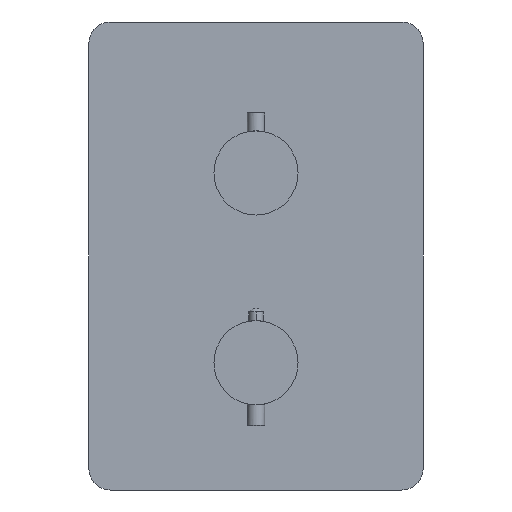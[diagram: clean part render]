
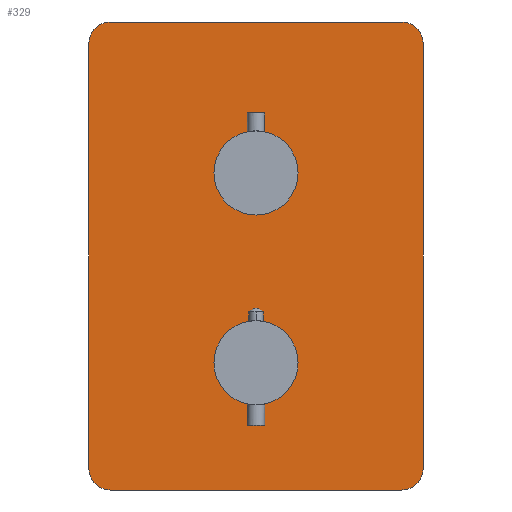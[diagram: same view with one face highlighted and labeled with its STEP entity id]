
A CAD part, left-side view. The second image highlights one B-rep face of the part: STEP entity #329.
In plain terms, the highlighted planar face has unit normal (-1, 0, 0).
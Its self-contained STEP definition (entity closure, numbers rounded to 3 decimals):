
#5 = ORIENTED_EDGE ( 'NONE', *, *, #674, .F. ) ;
#12 = EDGE_LOOP ( 'NONE', ( #978, #922 ) ) ;
#21 = CIRCLE ( 'NONE', #486, 10. ) ;
#26 = CIRCLE ( 'NONE', #165, 19.5 ) ;
#41 = CARTESIAN_POINT ( 'NONE',  ( -188.646, 18.568, -265.911 ) ) ;
#50 = VERTEX_POINT ( 'NONE', #2085 ) ;
#56 = AXIS2_PLACEMENT_3D ( 'NONE', #1335, #1519, #1196 ) ;
#65 = CARTESIAN_POINT ( 'NONE',  ( -188.646, -48.932, -186.411 ) ) ;
#103 = ORIENTED_EDGE ( 'NONE', *, *, #1106, .T. ) ;
#117 = DIRECTION ( 'NONE',  ( 0., 0., -1. ) ) ;
#165 = AXIS2_PLACEMENT_3D ( 'NONE', #2019, #1490, #1041 ) ;
#199 = CIRCLE ( 'NONE', #1599, 10. ) ;
#200 = AXIS2_PLACEMENT_3D ( 'NONE', #791, #1725, #778 ) ;
#215 = DIRECTION ( 'NONE',  ( 0., 0., 1. ) ) ;
#223 = EDGE_CURVE ( 'NONE', #1763, #50, #1557, .T. ) ;
#248 = DIRECTION ( 'NONE',  ( 1., 0., 0. ) ) ;
#259 = CARTESIAN_POINT ( 'NONE',  ( -188.646, 96.068, -393.411 ) ) ;
#274 = CARTESIAN_POINT ( 'NONE',  ( -188.646, 86.068, -186.411 ) ) ;
#329 = ADVANCED_FACE ( 'NONE', ( #1075, #1901, #1718 ), #2064, .F. ) ;
#341 = CARTESIAN_POINT ( 'NONE',  ( -188.646, 18.568, -226.911 ) ) ;
#376 = CARTESIAN_POINT ( 'NONE',  ( -188.646, -58.932, -141.792 ) ) ;
#385 = LINE ( 'NONE', #376, #900 ) ;
#391 = DIRECTION ( 'NONE',  ( 0., 0., 1. ) ) ;
#432 = CARTESIAN_POINT ( 'NONE',  ( -188.646, 96.068, -383.411 ) ) ;
#468 = CARTESIAN_POINT ( 'NONE',  ( -188.646, -48.932, -176.411 ) ) ;
#471 = EDGE_CURVE ( 'NONE', #1464, #1043, #21, .T. ) ;
#486 = AXIS2_PLACEMENT_3D ( 'NONE', #65, #703, #1332 ) ;
#489 = VERTEX_POINT ( 'NONE', #540 ) ;
#499 = DIRECTION ( 'NONE',  ( 0., -1., 0. ) ) ;
#518 = AXIS2_PLACEMENT_3D ( 'NONE', #1947, #1658, #391 ) ;
#540 = CARTESIAN_POINT ( 'NONE',  ( -188.646, -48.932, -393.411 ) ) ;
#552 = VERTEX_POINT ( 'NONE', #1264 ) ;
#580 = DIRECTION ( 'NONE',  ( 0., 1., 0. ) ) ;
#583 = CARTESIAN_POINT ( 'NONE',  ( -188.646, 18.568, -246.411 ) ) ;
#595 = VERTEX_POINT ( 'NONE', #1045 ) ;
#622 = CARTESIAN_POINT ( 'NONE',  ( -188.646, 18.568, -314.911 ) ) ;
#654 = AXIS2_PLACEMENT_3D ( 'NONE', #1252, #1923, #1742 ) ;
#658 = EDGE_CURVE ( 'NONE', #552, #489, #965, .T. ) ;
#659 = EDGE_CURVE ( 'NONE', #760, #1550, #1279, .T. ) ;
#674 = EDGE_CURVE ( 'NONE', #595, #845, #26, .T. ) ;
#703 = DIRECTION ( 'NONE',  ( 1., 0., 0. ) ) ;
#708 = VERTEX_POINT ( 'NONE', #1799 ) ;
#714 = CARTESIAN_POINT ( 'NONE',  ( -188.646, 96.068, -421.722 ) ) ;
#743 = LINE ( 'NONE', #259, #1927 ) ;
#760 = VERTEX_POINT ( 'NONE', #341 ) ;
#764 = ORIENTED_EDGE ( 'NONE', *, *, #1312, .F. ) ;
#778 = DIRECTION ( 'NONE',  ( 0., 0., -1. ) ) ;
#784 = CIRCLE ( 'NONE', #1707, 19.5 ) ;
#791 = CARTESIAN_POINT ( 'NONE',  ( -188.646, 18.568, -334.411 ) ) ;
#845 = VERTEX_POINT ( 'NONE', #622 ) ;
#851 = DIRECTION ( 'NONE',  ( 0., 0., -1. ) ) ;
#864 = VECTOR ( 'NONE', #499, 1000. ) ;
#899 = EDGE_CURVE ( 'NONE', #552, #1043, #385, .T. ) ;
#900 = VECTOR ( 'NONE', #215, 1000. ) ;
#913 = CARTESIAN_POINT ( 'NONE',  ( -188.646, 86.068, -383.411 ) ) ;
#922 = ORIENTED_EDGE ( 'NONE', *, *, #659, .F. ) ;
#924 = DIRECTION ( 'NONE',  ( -1., 0., 0. ) ) ;
#955 = EDGE_CURVE ( 'NONE', #1550, #760, #784, .T. ) ;
#965 = CIRCLE ( 'NONE', #518, 10. ) ;
#967 = ORIENTED_EDGE ( 'NONE', *, *, #899, .T. ) ;
#978 = ORIENTED_EDGE ( 'NONE', *, *, #955, .F. ) ;
#1004 = ORIENTED_EDGE ( 'NONE', *, *, #1251, .F. ) ;
#1041 = DIRECTION ( 'NONE',  ( 0., 0., -1. ) ) ;
#1043 = VERTEX_POINT ( 'NONE', #1757 ) ;
#1045 = CARTESIAN_POINT ( 'NONE',  ( -188.646, 18.568, -353.911 ) ) ;
#1075 = FACE_BOUND ( 'NONE', #1192, .T. ) ;
#1106 = EDGE_CURVE ( 'NONE', #1763, #1949, #1987, .T. ) ;
#1192 = EDGE_LOOP ( 'NONE', ( #5, #1681 ) ) ;
#1196 = DIRECTION ( 'NONE',  ( 0., 0., -1. ) ) ;
#1246 = ORIENTED_EDGE ( 'NONE', *, *, #658, .F. ) ;
#1251 = EDGE_CURVE ( 'NONE', #489, #708, #743, .T. ) ;
#1252 = CARTESIAN_POINT ( 'NONE',  ( -188.646, 96.068, -376.411 ) ) ;
#1264 = CARTESIAN_POINT ( 'NONE',  ( -188.646, -58.932, -383.411 ) ) ;
#1279 = CIRCLE ( 'NONE', #56, 19.5 ) ;
#1312 = EDGE_CURVE ( 'NONE', #708, #1949, #199, .T. ) ;
#1332 = DIRECTION ( 'NONE',  ( 0., 0., -1. ) ) ;
#1335 = CARTESIAN_POINT ( 'NONE',  ( -188.646, 18.568, -246.411 ) ) ;
#1386 = CARTESIAN_POINT ( 'NONE',  ( -188.646, 96.068, -186.411 ) ) ;
#1397 = VECTOR ( 'NONE', #851, 1000. ) ;
#1411 = ORIENTED_EDGE ( 'NONE', *, *, #223, .F. ) ;
#1464 = VERTEX_POINT ( 'NONE', #468 ) ;
#1474 = AXIS2_PLACEMENT_3D ( 'NONE', #274, #1481, #1535 ) ;
#1481 = DIRECTION ( 'NONE',  ( 1., 0., 0. ) ) ;
#1490 = DIRECTION ( 'NONE',  ( -1., 0., 0. ) ) ;
#1495 = CIRCLE ( 'NONE', #200, 19.5 ) ;
#1519 = DIRECTION ( 'NONE',  ( -1., 0., 0. ) ) ;
#1535 = DIRECTION ( 'NONE',  ( 0., 0., 1. ) ) ;
#1550 = VERTEX_POINT ( 'NONE', #41 ) ;
#1554 = EDGE_LOOP ( 'NONE', ( #764, #1004, #1246, #967, #1827, #1936, #1411, #103 ) ) ;
#1557 = CIRCLE ( 'NONE', #1474, 10. ) ;
#1599 = AXIS2_PLACEMENT_3D ( 'NONE', #913, #248, #1656 ) ;
#1656 = DIRECTION ( 'NONE',  ( 0., 0., -1. ) ) ;
#1658 = DIRECTION ( 'NONE',  ( 1., 0., 0. ) ) ;
#1681 = ORIENTED_EDGE ( 'NONE', *, *, #1770, .F. ) ;
#1707 = AXIS2_PLACEMENT_3D ( 'NONE', #583, #924, #117 ) ;
#1718 = FACE_BOUND ( 'NONE', #12, .T. ) ;
#1725 = DIRECTION ( 'NONE',  ( -1., 0., 0. ) ) ;
#1742 = DIRECTION ( 'NONE',  ( 0., 0., 1. ) ) ;
#1757 = CARTESIAN_POINT ( 'NONE',  ( -188.646, -58.932, -186.411 ) ) ;
#1763 = VERTEX_POINT ( 'NONE', #1386 ) ;
#1770 = EDGE_CURVE ( 'NONE', #845, #595, #1495, .T. ) ;
#1777 = CARTESIAN_POINT ( 'NONE',  ( -188.646, -58.932, -176.411 ) ) ;
#1799 = CARTESIAN_POINT ( 'NONE',  ( -188.646, 86.068, -393.411 ) ) ;
#1827 = ORIENTED_EDGE ( 'NONE', *, *, #471, .F. ) ;
#1833 = EDGE_CURVE ( 'NONE', #50, #1464, #1951, .T. ) ;
#1901 = FACE_OUTER_BOUND ( 'NONE', #1554, .T. ) ;
#1923 = DIRECTION ( 'NONE',  ( 1., 0., 0. ) ) ;
#1927 = VECTOR ( 'NONE', #580, 1000. ) ;
#1936 = ORIENTED_EDGE ( 'NONE', *, *, #1833, .F. ) ;
#1947 = CARTESIAN_POINT ( 'NONE',  ( -188.646, -48.932, -383.411 ) ) ;
#1949 = VERTEX_POINT ( 'NONE', #432 ) ;
#1951 = LINE ( 'NONE', #1777, #864 ) ;
#1987 = LINE ( 'NONE', #714, #1397 ) ;
#2019 = CARTESIAN_POINT ( 'NONE',  ( -188.646, 18.568, -334.411 ) ) ;
#2064 = PLANE ( 'NONE',  #654 ) ;
#2085 = CARTESIAN_POINT ( 'NONE',  ( -188.646, 86.068, -176.411 ) ) ;
